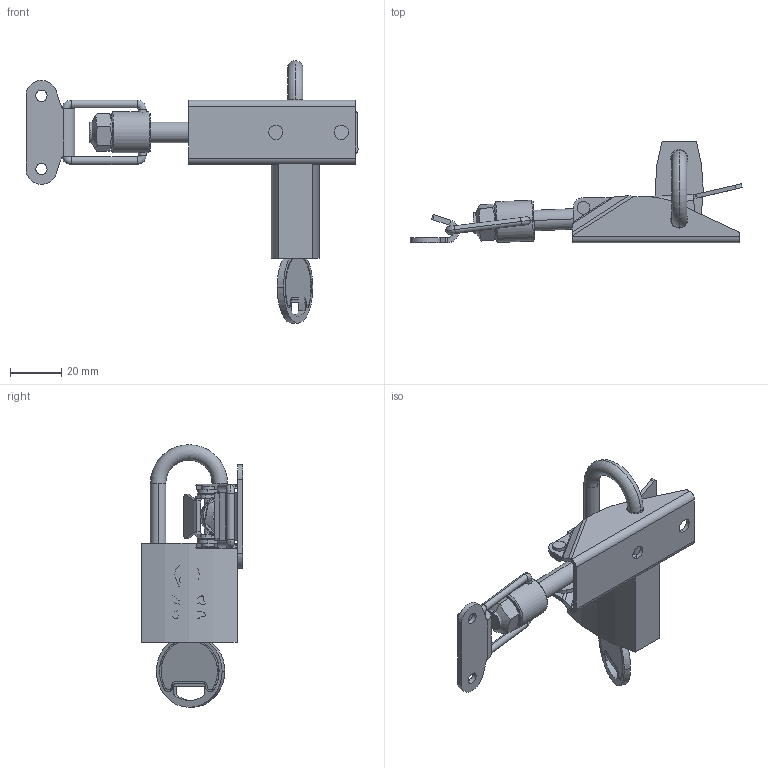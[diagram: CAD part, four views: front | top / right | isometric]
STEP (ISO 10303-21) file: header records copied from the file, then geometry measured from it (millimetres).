
FILE_DESCRIPTION (( 'STEP AP203' ), '1' );
FILE_NAME ('KFC3.STEP', '2014-08-22T18:06:20', ( 'Ricardo' ), ( '' ), 'SwSTEP 2.0', 'SolidWorks 2013', '' );
FILE_SCHEMA (( 'CONFIG_CONTROL_DESIGN' ));
Length unit declared in the file: millimetre
Products named in the file (15): 3033000015; 02.10059; User Library-cadeado_CORPO cad; 01.10190; User Library-cadeado_miolo cad; 03.20087; User Library-cadeado_haste cad; 05.20058; User Library-cadeado_chave cad; 03.20088; cadeado ﾘ6,0; 11.50017; KFC3; 02.10056_conformado; 3033000014
Assembly tree (15 placements, depth 3):
  KFC3
    02.10059
    01.10190
    03.20087
    05.20058
    03.20088
    11.50017
    02.10056_conformado
    3033000014  x2
    3033000015
    cadeado ﾘ6,0
      User Library-cadeado_CORPO cad
      User Library-cadeado_miolo cad
      User Library-cadeado_haste cad
      User Library-cadeado_chave cad
Bounding box: 129.12 x 39.61 x 102.08 mm (x, y, z)
Volume: 30151.9 mm3; surface area: 39349.2 mm2
Topology: 14 solids, 17 shells, 558 faces, 1437 edges, 919 vertices
Faces by surface type: plane 268, cylinder 184, bspline 72, cone 22, torus 10, sphere 2
Entity records: 20849 total; most frequent: CARTESIAN_POINT 5990, ORIENTED_EDGE 2850, DIRECTION 2620, EDGE_CURVE 1425, AXIS2_PLACEMENT_3D 927, VERTEX_POINT 911, LINE 766, VECTOR 766
